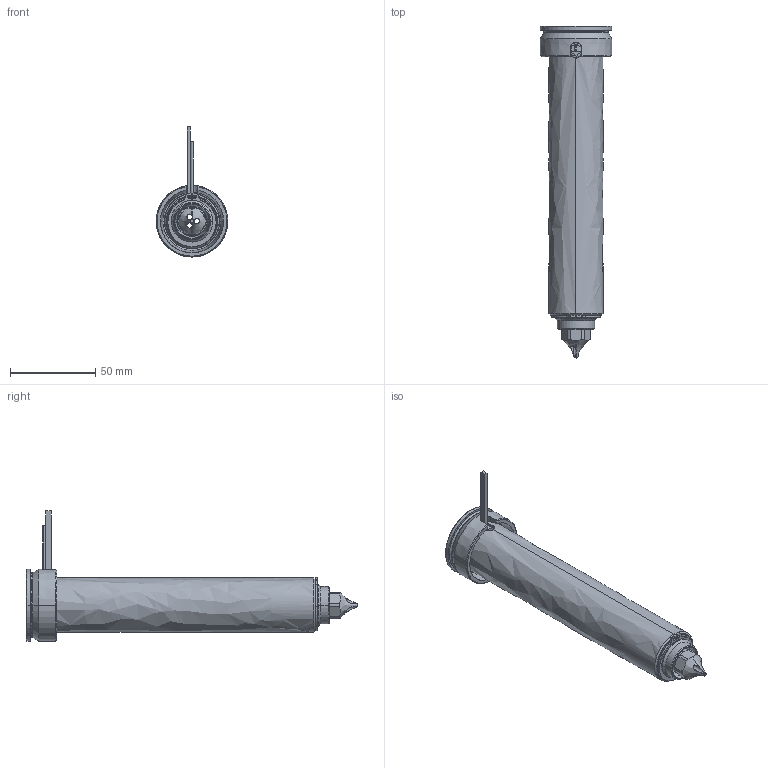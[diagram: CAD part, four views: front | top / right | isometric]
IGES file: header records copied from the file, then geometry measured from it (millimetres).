
Start section: SolidWorks IGES file using analytic representation for surfaces
Global section: file name: C:\Users\luca.EMPAD\Desktop\TEM\UGDL3615-S-A-1 [Øf=2.0 ØC=10].IGS; native system: SolidWorks 2012; preprocessor: SolidWorks 2012; author: luca; date: 120330.160650; units: millimetre
Bounding box: 42 x 194.8 x 76.3 mm (x, y, z)
Surface area: 62321.1 mm2 (no closed solid volume)
Topology: 0 solids, 0 shells, 126 faces, 2264 edges, 2264 vertices
Faces by surface type: revolution 81, bspline 45
